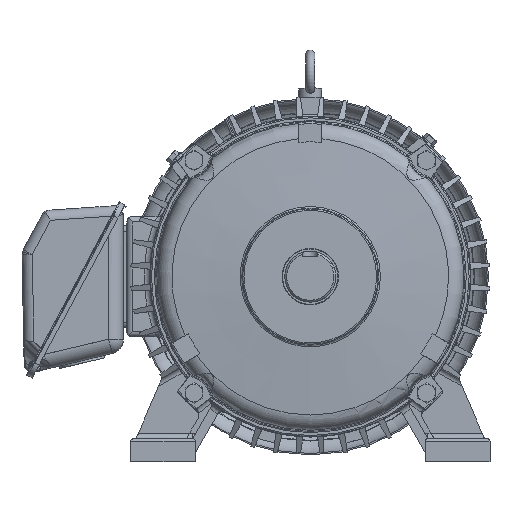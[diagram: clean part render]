
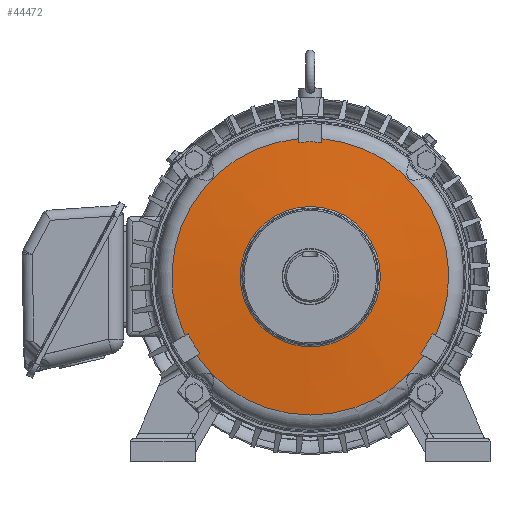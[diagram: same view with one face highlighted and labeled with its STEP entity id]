
A CAD part, front view. The second image highlights one B-rep face of the part: STEP entity #44472.
In plain terms, the highlighted conical face has half-angle 85.199 degrees and reference radius 74 mm.
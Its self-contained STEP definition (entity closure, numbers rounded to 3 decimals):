
#665=CONICAL_SURFACE('',#47496,74.,1.487);
#1656=B_SPLINE_CURVE_WITH_KNOTS('',3,(#71500,#71501,#71502,#71503),
 .UNSPECIFIED.,.F.,.F.,(4,4),(0.,1.),.PIECEWISE_BEZIER_KNOTS.);
#1658=B_SPLINE_CURVE_WITH_KNOTS('',3,(#71554,#71555,#71556,#71557),
 .UNSPECIFIED.,.F.,.F.,(4,4),(0.,1.),.PIECEWISE_BEZIER_KNOTS.);
#1677=B_SPLINE_CURVE_WITH_KNOTS('',3,(#71811,#71812,#71813,#71814),
 .UNSPECIFIED.,.F.,.F.,(4,4),(0.,1.),.PIECEWISE_BEZIER_KNOTS.);
#1679=B_SPLINE_CURVE_WITH_KNOTS('',3,(#71865,#71866,#71867,#71868),
 .UNSPECIFIED.,.F.,.F.,(4,4),(0.,1.),.PIECEWISE_BEZIER_KNOTS.);
#1730=B_SPLINE_CURVE_WITH_KNOTS('',3,(#72660,#72661,#72662,#72663),
 .UNSPECIFIED.,.F.,.F.,(4,4),(0.,1.),.PIECEWISE_BEZIER_KNOTS.);
#1732=B_SPLINE_CURVE_WITH_KNOTS('',3,(#72714,#72715,#72716,#72717),
 .UNSPECIFIED.,.F.,.F.,(4,4),(0.,1.),.PIECEWISE_BEZIER_KNOTS.);
#3740=CIRCLE('',#47313,145.43);
#3747=CIRCLE('',#47326,145.43);
#3805=CIRCLE('',#47420,145.43);
#3851=CIRCLE('',#47497,75.733);
#3852=CIRCLE('',#47498,149.371);
#3853=CIRCLE('',#47499,149.371);
#3854=CIRCLE('',#47500,149.371);
#8732=ORIENTED_EDGE('',*,*,#18394,.T.);
#8733=ORIENTED_EDGE('',*,*,#18270,.F.);
#8734=ORIENTED_EDGE('',*,*,#18395,.T.);
#8735=ORIENTED_EDGE('',*,*,#18114,.F.);
#8736=ORIENTED_EDGE('',*,*,#18112,.F.);
#8737=ORIENTED_EDGE('',*,*,#18109,.F.);
#8738=ORIENTED_EDGE('',*,*,#18396,.T.);
#8739=ORIENTED_EDGE('',*,*,#18084,.F.);
#8740=ORIENTED_EDGE('',*,*,#18082,.F.);
#8741=ORIENTED_EDGE('',*,*,#18079,.F.);
#8742=ORIENTED_EDGE('',*,*,#18397,.T.);
#8743=ORIENTED_EDGE('',*,*,#18275,.F.);
#8744=ORIENTED_EDGE('',*,*,#18273,.F.);
#18079=EDGE_CURVE('',#23212,#23211,#1656,.T.);
#18082=EDGE_CURVE('',#23211,#23213,#3740,.F.);
#18084=EDGE_CURVE('',#23213,#23215,#1658,.T.);
#18109=EDGE_CURVE('',#23236,#23235,#1677,.T.);
#18112=EDGE_CURVE('',#23235,#23237,#3747,.F.);
#18114=EDGE_CURVE('',#23237,#23239,#1679,.T.);
#18270=EDGE_CURVE('',#23371,#23368,#1730,.T.);
#18273=EDGE_CURVE('',#23368,#23372,#3805,.F.);
#18275=EDGE_CURVE('',#23372,#23374,#1732,.T.);
#18394=EDGE_CURVE('',#23459,#23459,#3851,.T.);
#18395=EDGE_CURVE('',#23371,#23239,#3852,.T.);
#18396=EDGE_CURVE('',#23236,#23215,#3853,.T.);
#18397=EDGE_CURVE('',#23212,#23374,#3854,.T.);
#23211=VERTEX_POINT('',#71395);
#23212=VERTEX_POINT('',#71499);
#23213=VERTEX_POINT('',#71506);
#23215=VERTEX_POINT('',#71558);
#23235=VERTEX_POINT('',#71706);
#23236=VERTEX_POINT('',#71810);
#23237=VERTEX_POINT('',#71817);
#23239=VERTEX_POINT('',#71869);
#23368=VERTEX_POINT('',#72549);
#23371=VERTEX_POINT('',#72659);
#23372=VERTEX_POINT('',#72666);
#23374=VERTEX_POINT('',#72718);
#23459=VERTEX_POINT('',#73350);
#30463=EDGE_LOOP('',(#8732));
#30464=EDGE_LOOP('',(#8733,#8734,#8735,#8736,#8737,#8738,#8739,#8740,#8741,
#8742,#8743,#8744));
#33176=FACE_BOUND('',#30463,.T.);
#33177=FACE_BOUND('',#30464,.T.);
#44472=ADVANCED_FACE('',(#33176,#33177),#665,.T.);
#47313=AXIS2_PLACEMENT_3D('',#71509,#53272,#53273);
#47326=AXIS2_PLACEMENT_3D('',#71820,#53300,#53301);
#47420=AXIS2_PLACEMENT_3D('',#72669,#53537,#53538);
#47496=AXIS2_PLACEMENT_3D('',#73348,#53701,#53702);
#47497=AXIS2_PLACEMENT_3D('',#73349,#53703,#53704);
#47498=AXIS2_PLACEMENT_3D('',#73351,#53705,#53706);
#47499=AXIS2_PLACEMENT_3D('',#73352,#53707,#53708);
#47500=AXIS2_PLACEMENT_3D('',#73353,#53709,#53710);
#53272=DIRECTION('',(0.,-1.,0.));
#53273=DIRECTION('',(1.,0.,0.));
#53300=DIRECTION('',(0.,-1.,0.));
#53301=DIRECTION('',(1.,0.,0.));
#53537=DIRECTION('',(0.,-1.,0.));
#53538=DIRECTION('',(0.,0.,-1.));
#53701=DIRECTION('',(0.,1.,0.));
#53702=DIRECTION('',(0.,0.,1.));
#53703=DIRECTION('',(0.,1.,0.));
#53704=DIRECTION('',(0.,0.,1.));
#53705=DIRECTION('',(0.,-1.,0.));
#53706=DIRECTION('',(0.,0.,-1.));
#53707=DIRECTION('',(0.,-1.,0.));
#53708=DIRECTION('',(0.,0.,-1.));
#53709=DIRECTION('',(0.,-1.,0.));
#53710=DIRECTION('',(0.,0.,-1.));
#71395=CARTESIAN_POINT('',(-119.23,24.,-83.271));
#71499=CARTESIAN_POINT('',(-122.655,24.331,-85.249));
#71500=CARTESIAN_POINT('',(-122.655,24.331,-85.249));
#71501=CARTESIAN_POINT('',(-121.514,24.221,-84.59));
#71502=CARTESIAN_POINT('',(-120.372,24.11,-83.931));
#71503=CARTESIAN_POINT('',(-119.23,24.,-83.271));
#71506=CARTESIAN_POINT('',(-131.73,24.,-61.621));
#71509=CARTESIAN_POINT('',(0.,24.,0.));
#71554=CARTESIAN_POINT('',(-131.73,24.,-61.621));
#71555=CARTESIAN_POINT('',(-132.872,24.11,-62.28));
#71556=CARTESIAN_POINT('',(-134.014,24.221,-62.939));
#71557=CARTESIAN_POINT('',(-135.155,24.331,-63.598));
#71558=CARTESIAN_POINT('',(-135.155,24.331,-63.598));
#71706=CARTESIAN_POINT('',(-12.5,24.,144.892));
#71810=CARTESIAN_POINT('',(-12.5,24.331,148.847));
#71811=CARTESIAN_POINT('',(-12.5,24.331,148.847));
#71812=CARTESIAN_POINT('',(-12.5,24.221,147.529));
#71813=CARTESIAN_POINT('',(-12.5,24.11,146.21));
#71814=CARTESIAN_POINT('',(-12.5,24.,144.892));
#71817=CARTESIAN_POINT('',(12.5,24.,144.892));
#71820=CARTESIAN_POINT('',(0.,24.,0.));
#71865=CARTESIAN_POINT('',(12.5,24.,144.892));
#71866=CARTESIAN_POINT('',(12.5,24.11,146.21));
#71867=CARTESIAN_POINT('',(12.5,24.221,147.529));
#71868=CARTESIAN_POINT('',(12.5,24.331,148.847));
#71869=CARTESIAN_POINT('',(12.5,24.331,148.847));
#72549=CARTESIAN_POINT('',(131.73,24.,-61.621));
#72659=CARTESIAN_POINT('',(135.155,24.331,-63.598));
#72660=CARTESIAN_POINT('',(135.155,24.331,-63.598));
#72661=CARTESIAN_POINT('',(134.014,24.221,-62.939));
#72662=CARTESIAN_POINT('',(132.872,24.11,-62.28));
#72663=CARTESIAN_POINT('',(131.73,24.,-61.621));
#72666=CARTESIAN_POINT('',(119.23,24.,-83.271));
#72669=CARTESIAN_POINT('',(0.,24.,0.));
#72714=CARTESIAN_POINT('',(119.23,24.,-83.271));
#72715=CARTESIAN_POINT('',(120.372,24.11,-83.931));
#72716=CARTESIAN_POINT('',(121.514,24.221,-84.59));
#72717=CARTESIAN_POINT('',(122.655,24.331,-85.249));
#72718=CARTESIAN_POINT('',(122.655,24.331,-85.249));
#73348=CARTESIAN_POINT('',(0.,18.,0.));
#73349=CARTESIAN_POINT('',(0.,18.146,0.));
#73350=CARTESIAN_POINT('',(0.,18.146,75.733));
#73351=CARTESIAN_POINT('',(0.,24.331,0.));
#73352=CARTESIAN_POINT('',(0.,24.331,0.));
#73353=CARTESIAN_POINT('',(0.,24.331,0.));
